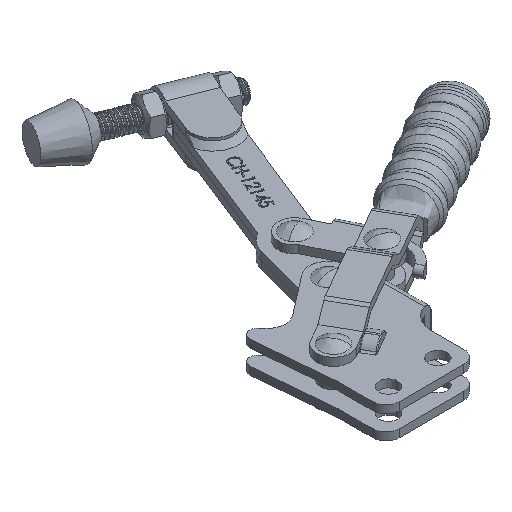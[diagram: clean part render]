
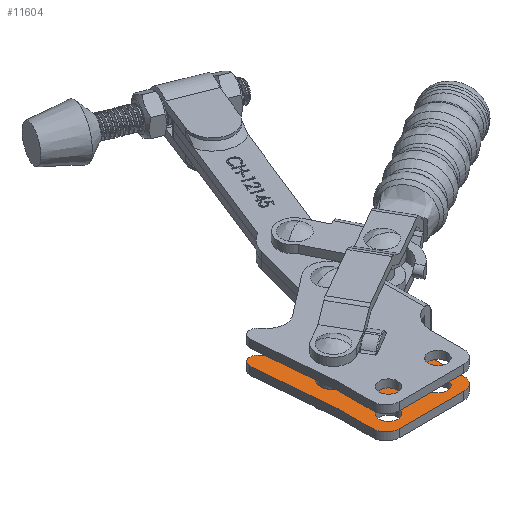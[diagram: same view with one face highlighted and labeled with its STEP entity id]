
A CAD part, isometric view. The second image highlights one B-rep face of the part: STEP entity #11604.
In plain terms, the highlighted planar face has unit normal (0, 0, 1).
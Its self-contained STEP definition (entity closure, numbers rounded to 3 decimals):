
#813=FACE_BOUND('',#1863,.T.);
#814=FACE_BOUND('',#1864,.T.);
#815=FACE_BOUND('',#1865,.T.);
#816=FACE_BOUND('',#1866,.T.);
#817=FACE_BOUND('',#1867,.T.);
#895=PLANE('',#12539);
#1200=FACE_OUTER_BOUND('',#1862,.T.);
#1862=EDGE_LOOP('',(#8090,#8091,#8092,#8093,#8094,#8095,#8096,#8097,#8098,
#8099,#8100,#8101,#8102,#8103,#8104,#8105));
#1863=EDGE_LOOP('',(#8106,#8107));
#1864=EDGE_LOOP('',(#8108,#8109));
#1865=EDGE_LOOP('',(#8110,#8111));
#1866=EDGE_LOOP('',(#8112,#8113));
#1867=EDGE_LOOP('',(#8114,#8115));
#2592=LINE('',#16276,#3565);
#2601=LINE('',#16318,#3574);
#2605=LINE('',#16327,#3578);
#2607=LINE('',#16333,#3580);
#2609=LINE('',#16337,#3582);
#2611=LINE('',#16341,#3584);
#2613=LINE('',#16345,#3586);
#2614=LINE('',#16349,#3587);
#2615=LINE('',#16351,#3588);
#3565=VECTOR('',#13533,1000.);
#3574=VECTOR('',#13556,1000.);
#3578=VECTOR('',#13566,1000.);
#3580=VECTOR('',#13574,1000.);
#3582=VECTOR('',#13578,1000.);
#3584=VECTOR('',#13582,1000.);
#3586=VECTOR('',#13586,1000.);
#3587=VECTOR('',#13589,1000.);
#3588=VECTOR('',#13592,1000.);
#4487=CIRCLE('',#12443,3.6);
#4488=CIRCLE('',#12444,3.6);
#4495=CIRCLE('',#12453,3.6);
#4496=CIRCLE('',#12454,3.6);
#4497=CIRCLE('',#12456,1.95);
#4498=CIRCLE('',#12457,1.95);
#4501=CIRCLE('',#12461,3.2);
#4502=CIRCLE('',#12462,3.2);
#4505=CIRCLE('',#12466,3.2);
#4506=CIRCLE('',#12467,3.2);
#4523=CIRCLE('',#12489,3.);
#4537=CIRCLE('',#12506,4.);
#4544=CIRCLE('',#12524,9.5);
#4547=CIRCLE('',#12531,7.5);
#4548=CIRCLE('',#12534,7.);
#4549=CIRCLE('',#12540,5.);
#4550=CIRCLE('',#12541,5.);
#4846=VERTEX_POINT('',#16012);
#4847=VERTEX_POINT('',#16014);
#4854=VERTEX_POINT('',#16032);
#4855=VERTEX_POINT('',#16034);
#4856=VERTEX_POINT('',#16038);
#4857=VERTEX_POINT('',#16039);
#4860=VERTEX_POINT('',#16048);
#4861=VERTEX_POINT('',#16049);
#4864=VERTEX_POINT('',#16058);
#4865=VERTEX_POINT('',#16059);
#4884=VERTEX_POINT('',#16107);
#4885=VERTEX_POINT('',#16108);
#4927=VERTEX_POINT('',#16210);
#4928=VERTEX_POINT('',#16211);
#4942=VERTEX_POINT('',#16274);
#4943=VERTEX_POINT('',#16275);
#4946=VERTEX_POINT('',#16293);
#4949=VERTEX_POINT('',#16317);
#4950=VERTEX_POINT('',#16321);
#4951=VERTEX_POINT('',#16325);
#4952=VERTEX_POINT('',#16329);
#4953=VERTEX_POINT('',#16335);
#4954=VERTEX_POINT('',#16339);
#4955=VERTEX_POINT('',#16343);
#4956=VERTEX_POINT('',#16347);
#4957=VERTEX_POINT('',#16348);
#6060=EDGE_CURVE('',#4847,#4846,#4487,.T.);
#6061=EDGE_CURVE('',#4846,#4847,#4488,.T.);
#6070=EDGE_CURVE('',#4855,#4854,#4495,.T.);
#6071=EDGE_CURVE('',#4854,#4855,#4496,.T.);
#6072=EDGE_CURVE('',#4856,#4857,#4497,.T.);
#6073=EDGE_CURVE('',#4857,#4856,#4498,.T.);
#6077=EDGE_CURVE('',#4860,#4861,#4501,.T.);
#6078=EDGE_CURVE('',#4861,#4860,#4502,.T.);
#6082=EDGE_CURVE('',#4864,#4865,#4505,.T.);
#6083=EDGE_CURVE('',#4865,#4864,#4506,.T.);
#6106=EDGE_CURVE('',#4884,#4885,#4523,.T.);
#6151=EDGE_CURVE('',#4927,#4928,#4537,.T.);
#6177=EDGE_CURVE('',#4942,#4943,#2592,.T.);
#6183=EDGE_CURVE('',#4946,#4942,#4544,.T.);
#6191=EDGE_CURVE('',#4949,#4928,#2601,.T.);
#6194=EDGE_CURVE('',#4950,#4949,#4547,.T.);
#6196=EDGE_CURVE('',#4951,#4950,#2605,.T.);
#6198=EDGE_CURVE('',#4952,#4951,#4548,.T.);
#6199=EDGE_CURVE('',#4885,#4952,#2607,.T.);
#6201=EDGE_CURVE('',#4953,#4884,#2609,.T.);
#6203=EDGE_CURVE('',#4954,#4953,#2611,.T.);
#6205=EDGE_CURVE('',#4946,#4955,#2613,.T.);
#6206=EDGE_CURVE('',#4956,#4957,#2614,.T.);
#6207=EDGE_CURVE('',#4956,#4943,#4549,.T.);
#6208=EDGE_CURVE('',#4955,#4927,#2615,.T.);
#6209=EDGE_CURVE('',#4954,#4957,#4550,.T.);
#8090=ORIENTED_EDGE('',*,*,#6206,.F.);
#8091=ORIENTED_EDGE('',*,*,#6207,.T.);
#8092=ORIENTED_EDGE('',*,*,#6177,.F.);
#8093=ORIENTED_EDGE('',*,*,#6183,.F.);
#8094=ORIENTED_EDGE('',*,*,#6205,.T.);
#8095=ORIENTED_EDGE('',*,*,#6208,.T.);
#8096=ORIENTED_EDGE('',*,*,#6151,.T.);
#8097=ORIENTED_EDGE('',*,*,#6191,.F.);
#8098=ORIENTED_EDGE('',*,*,#6194,.F.);
#8099=ORIENTED_EDGE('',*,*,#6196,.F.);
#8100=ORIENTED_EDGE('',*,*,#6198,.F.);
#8101=ORIENTED_EDGE('',*,*,#6199,.F.);
#8102=ORIENTED_EDGE('',*,*,#6106,.F.);
#8103=ORIENTED_EDGE('',*,*,#6201,.F.);
#8104=ORIENTED_EDGE('',*,*,#6203,.F.);
#8105=ORIENTED_EDGE('',*,*,#6209,.T.);
#8106=ORIENTED_EDGE('',*,*,#6072,.T.);
#8107=ORIENTED_EDGE('',*,*,#6073,.T.);
#8108=ORIENTED_EDGE('',*,*,#6077,.T.);
#8109=ORIENTED_EDGE('',*,*,#6078,.T.);
#8110=ORIENTED_EDGE('',*,*,#6082,.T.);
#8111=ORIENTED_EDGE('',*,*,#6083,.T.);
#8112=ORIENTED_EDGE('',*,*,#6060,.T.);
#8113=ORIENTED_EDGE('',*,*,#6061,.T.);
#8114=ORIENTED_EDGE('',*,*,#6070,.T.);
#8115=ORIENTED_EDGE('',*,*,#6071,.T.);
#11604=ADVANCED_FACE('',(#1200,#813,#814,#815,#816,#817),#895,.F.);
#12443=AXIS2_PLACEMENT_3D('',#16015,#13318,#13319);
#12444=AXIS2_PLACEMENT_3D('',#16016,#13320,#13321);
#12453=AXIS2_PLACEMENT_3D('',#16035,#13340,#13341);
#12454=AXIS2_PLACEMENT_3D('',#16036,#13342,#13343);
#12456=AXIS2_PLACEMENT_3D('',#16040,#13346,#13347);
#12457=AXIS2_PLACEMENT_3D('',#16041,#13348,#13349);
#12461=AXIS2_PLACEMENT_3D('',#16050,#13357,#13358);
#12462=AXIS2_PLACEMENT_3D('',#16051,#13359,#13360);
#12466=AXIS2_PLACEMENT_3D('',#16060,#13368,#13369);
#12467=AXIS2_PLACEMENT_3D('',#16061,#13370,#13371);
#12489=AXIS2_PLACEMENT_3D('',#16109,#13420,#13421);
#12506=AXIS2_PLACEMENT_3D('',#16212,#13481,#13482);
#12524=AXIS2_PLACEMENT_3D('',#16295,#13540,#13541);
#12531=AXIS2_PLACEMENT_3D('',#16323,#13561,#13562);
#12534=AXIS2_PLACEMENT_3D('',#16331,#13570,#13571);
#12539=AXIS2_PLACEMENT_3D('',#16346,#13587,#13588);
#12540=AXIS2_PLACEMENT_3D('',#16350,#13590,#13591);
#12541=AXIS2_PLACEMENT_3D('',#16352,#13593,#13594);
#13318=DIRECTION('center_axis',(0.,0.,-1.));
#13319=DIRECTION('ref_axis',(-1.,0.,0.));
#13320=DIRECTION('center_axis',(0.,0.,-1.));
#13321=DIRECTION('ref_axis',(-1.,0.,0.));
#13340=DIRECTION('center_axis',(0.,0.,-1.));
#13341=DIRECTION('ref_axis',(-1.,0.,0.));
#13342=DIRECTION('center_axis',(0.,0.,-1.));
#13343=DIRECTION('ref_axis',(-1.,0.,0.));
#13346=DIRECTION('center_axis',(0.,0.,-1.));
#13347=DIRECTION('ref_axis',(-1.,0.,0.));
#13348=DIRECTION('center_axis',(0.,0.,-1.));
#13349=DIRECTION('ref_axis',(-1.,0.,0.));
#13357=DIRECTION('center_axis',(0.,0.,-1.));
#13358=DIRECTION('ref_axis',(-1.,0.,0.));
#13359=DIRECTION('center_axis',(0.,0.,-1.));
#13360=DIRECTION('ref_axis',(-1.,0.,0.));
#13368=DIRECTION('center_axis',(0.,0.,-1.));
#13369=DIRECTION('ref_axis',(-1.,0.,0.));
#13370=DIRECTION('center_axis',(0.,0.,-1.));
#13371=DIRECTION('ref_axis',(-1.,0.,0.));
#13420=DIRECTION('center_axis',(0.,0.,-1.));
#13421=DIRECTION('ref_axis',(-1.,0.,0.));
#13481=DIRECTION('center_axis',(0.,0.,-1.));
#13482=DIRECTION('ref_axis',(-1.,0.,0.));
#13533=DIRECTION('',(0.,-1.,0.));
#13540=DIRECTION('center_axis',(0.,0.,1.));
#13541=DIRECTION('ref_axis',(-1.,0.,0.));
#13556=DIRECTION('',(0.,-1.,0.));
#13561=DIRECTION('center_axis',(0.,0.,-1.));
#13562=DIRECTION('ref_axis',(-1.,0.,0.));
#13566=DIRECTION('',(0.792,0.611,0.));
#13570=DIRECTION('center_axis',(0.,0.,1.));
#13571=DIRECTION('ref_axis',(-1.,0.,0.));
#13574=DIRECTION('',(0.677,-0.736,0.));
#13578=DIRECTION('',(-0.09,0.996,0.));
#13582=DIRECTION('',(0.,1.,0.));
#13586=DIRECTION('',(0.,1.,0.));
#13587=DIRECTION('center_axis',(0.,0.,-1.));
#13588=DIRECTION('ref_axis',(-1.,0.,0.));
#13589=DIRECTION('',(-1.,0.,0.));
#13590=DIRECTION('center_axis',(0.,0.,1.));
#13591=DIRECTION('ref_axis',(-1.,0.,0.));
#13592=DIRECTION('',(1.,0.,0.));
#13593=DIRECTION('center_axis',(0.,0.,1.));
#13594=DIRECTION('ref_axis',(-1.,0.,0.));
#16012=CARTESIAN_POINT('',(-30.5,-8.1,3.));
#16014=CARTESIAN_POINT('',(-23.3,-8.1,3.));
#16015=CARTESIAN_POINT('Origin',(-26.9,-8.1,3.));
#16016=CARTESIAN_POINT('Origin',(-26.9,-8.1,3.));
#16032=CARTESIAN_POINT('',(-11.5,-8.1,3.));
#16034=CARTESIAN_POINT('',(-4.3,-8.1,3.));
#16035=CARTESIAN_POINT('Origin',(-7.9,-8.1,3.));
#16036=CARTESIAN_POINT('Origin',(-7.9,-8.1,3.));
#16038=CARTESIAN_POINT('',(-6.55,24.2,3.));
#16039=CARTESIAN_POINT('',(-2.65,24.2,3.));
#16040=CARTESIAN_POINT('Origin',(-4.6,24.2,3.));
#16041=CARTESIAN_POINT('Origin',(-4.6,24.2,3.));
#16048=CARTESIAN_POINT('',(-29.4,13.7,3.));
#16049=CARTESIAN_POINT('',(-23.,13.7,3.));
#16050=CARTESIAN_POINT('Origin',(-26.2,13.7,3.));
#16051=CARTESIAN_POINT('Origin',(-26.2,13.7,3.));
#16058=CARTESIAN_POINT('',(-5.1,39.7,3.));
#16059=CARTESIAN_POINT('',(1.3,39.7,3.));
#16060=CARTESIAN_POINT('Origin',(-1.9,39.7,3.));
#16061=CARTESIAN_POINT('Origin',(-1.9,39.7,3.));
#16107=CARTESIAN_POINT('',(-37.691,34.031,3.));
#16108=CARTESIAN_POINT('',(-32.494,36.33,3.));
#16109=CARTESIAN_POINT('Origin',(-34.703,34.3,3.));
#16210=CARTESIAN_POINT('',(9.6,34.,3.));
#16211=CARTESIAN_POINT('',(5.6,38.,3.));
#16212=CARTESIAN_POINT('Origin',(9.6,38.,3.));
#16274=CARTESIAN_POINT('',(0.,2.5,3.));
#16275=CARTESIAN_POINT('',(0.,-10.2,3.));
#16276=CARTESIAN_POINT('',(0.,0.,3.));
#16293=CARTESIAN_POINT('',(6.6,11.547,3.));
#16295=CARTESIAN_POINT('Origin',(9.5,2.5,3.));
#16317=CARTESIAN_POINT('',(5.6,39.7,3.));
#16318=CARTESIAN_POINT('',(5.6,39.7,3.));
#16321=CARTESIAN_POINT('',(-6.481,45.639,3.));
#16323=CARTESIAN_POINT('Origin',(-1.9,39.7,3.));
#16325=CARTESIAN_POINT('',(-21.625,33.957,3.));
#16327=CARTESIAN_POINT('',(-21.625,33.957,3.));
#16329=CARTESIAN_POINT('',(-31.053,34.763,3.));
#16331=CARTESIAN_POINT('Origin',(-25.9,39.5,3.));
#16333=CARTESIAN_POINT('',(-32.494,36.33,3.));
#16335=CARTESIAN_POINT('',(-34.9,3.,3.));
#16337=CARTESIAN_POINT('',(-34.9,3.,3.));
#16339=CARTESIAN_POINT('',(-34.9,-10.2,3.));
#16341=CARTESIAN_POINT('',(-34.9,0.,3.));
#16343=CARTESIAN_POINT('',(6.6,34.,3.));
#16345=CARTESIAN_POINT('',(6.6,0.,3.));
#16346=CARTESIAN_POINT('Origin',(-37.703,0.,3.));
#16347=CARTESIAN_POINT('',(-5.,-15.2,3.));
#16348=CARTESIAN_POINT('',(-29.9,-15.2,3.));
#16349=CARTESIAN_POINT('',(-34.9,-15.2,3.));
#16350=CARTESIAN_POINT('Origin',(-5.,-10.2,3.));
#16351=CARTESIAN_POINT('',(-2.4,34.,3.));
#16352=CARTESIAN_POINT('Origin',(-29.9,-10.2,3.));
